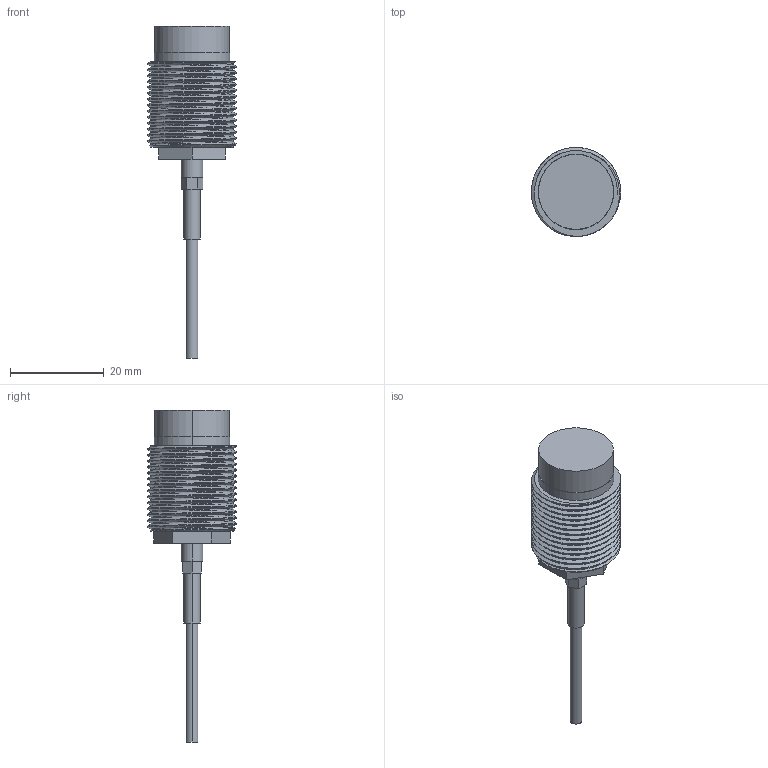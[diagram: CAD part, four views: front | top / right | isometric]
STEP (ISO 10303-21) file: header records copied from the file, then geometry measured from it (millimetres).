
FILE_DESCRIPTION (( 'STEP AP203' ), '1' );
FILE_NAME ('16U.STEP', '2010-03-05T18:58:58', ( 'tom edwards' ), ( 'Tom J. Edwards' ), 'SwSTEP 2.0', 'SolidWorks 2008', '' );
FILE_SCHEMA (( 'CONFIG_CONTROL_DESIGN' ));
Length unit declared in the file: inch
Products named in the file (1): 16U
Bounding box: 19.05 x 19.04 x 70.87 mm (x, y, z)
Volume: 7113.6 mm3; surface area: 3126.5 mm2
Topology: 1 solids, 1 shells, 71 faces, 174 edges, 111 vertices
Faces by surface type: cylinder 39, plane 26, cone 3, bspline 3
Entity records: 4538 total; most frequent: CARTESIAN_POINT 2966, ORIENTED_EDGE 348, DIRECTION 273, EDGE_CURVE 174, VERTEX_POINT 111, AXIS2_PLACEMENT_3D 98, EDGE_LOOP 77, LINE 77
